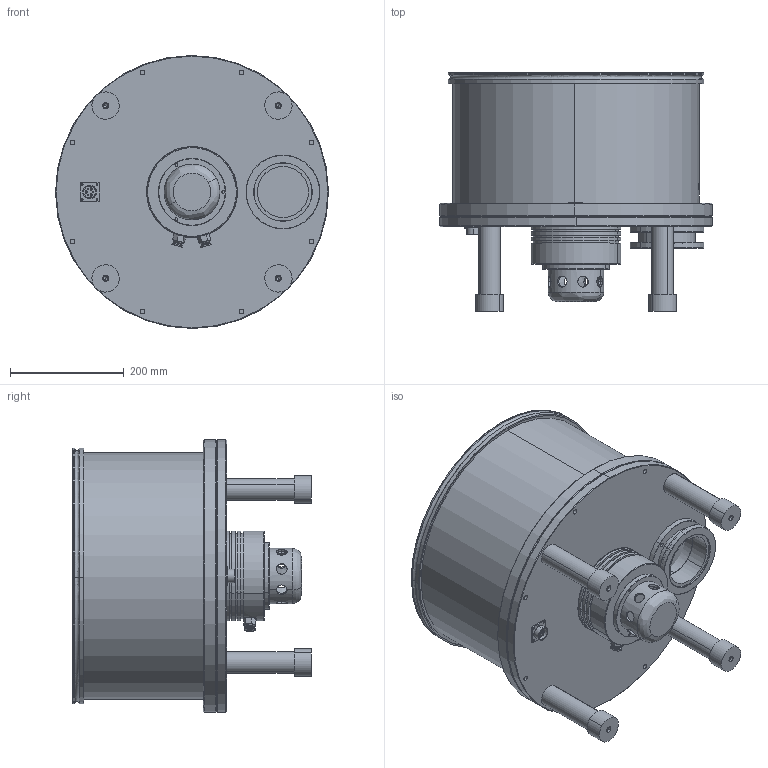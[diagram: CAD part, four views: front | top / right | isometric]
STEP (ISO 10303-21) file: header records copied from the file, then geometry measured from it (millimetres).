
FILE_DESCRIPTION (( 'STEP AP203' ), '1' );
FILE_NAME ('JTFB-4500梓袧.STEP', '2025-03-31T02:33:13', ( 'User' ), ( 'China' ), 'SwSTEP 2.0', 'SolidWorks 2016', '' );
FILE_SCHEMA (( 'CONFIG_CONTROL_DESIGN' ));
Length unit declared in the file: millimetre
Products named in the file (20): SJJTB-3600-24蜊24-1-2; 3600蝶杶24-1-2; hexagon socket head cap screws gb_GB_FASTENER_SCREWS_HSHCS M4X16-N; JTFB-4500梓袧; 阨郲24-1-2; JTFB-3600-01-01-01A24-1-2; JTFB210412-4200-03A-24-1-2; JTFB200918-3600-05B-01-0124-1-2_默认_按加工_; JTFB210412-4200-01A-0-24-1-2; JTFB200918-3600-05B-01-00P24-1-2; hexagon socket head cap screws gb_GB_FASTENER_SCREWS_HSHCS M8X16-N; SJJTB-3600-01-0224-1-2; 155X3.55密封圈24-1-2; JTFB200918-3600-05B-00P24-1-2; hexagon socket head cap screws gb_GB_FASTENER_SCREWS_HSHCS M4X10-N; 萇埭諉芛24-1-2; SJJTB-07-01A24-1-2; hexagon socket head cap screws gb_GB_FASTENER_SCREWS_HSHCS M6X50-N; JTFB210412-4200-0424-1-2; SJJTB-07-00A24-1-2
Assembly tree (28 placements, depth 4):
  JTFB-4500梓袧
    SJJTB-07-00A24-1-2
      SJJTB-07-01A24-1-2
    hexagon socket head cap screws gb_GB_FASTENER_SCREWS_HSHCS M4X16-N  x3
    JTFB200918-3600-05B-00P24-1-2
      JTFB200918-3600-05B-01-00P24-1-2
        JTFB-3600-01-01-01A24-1-2
        JTFB200918-3600-05B-01-0124-1-2_默认_按加工_
      SJJTB-3600-01-0224-1-2
    萇埭諉芛24-1-2
    JTFB210412-4200-0424-1-2  x4
    3600蝶杶24-1-2  x4
    阨郲24-1-2  x2
    JTFB210412-4200-03A-24-1-2
    JTFB210412-4200-01A-0-24-1-2
    hexagon socket head cap screws gb_GB_FASTENER_SCREWS_HSHCS M8X16-N
    155X3.55密封圈24-1-2
    hexagon socket head cap screws gb_GB_FASTENER_SCREWS_HSHCS M4X10-N
    hexagon socket head cap screws gb_GB_FASTENER_SCREWS_HSHCS M6X50-N
    SJJTB-3600-24蜊24-1-2
Bounding box: 480 x 419.55 x 480 mm (x, y, z)
Volume: 43642916.4 mm3; surface area: 1922786.6 mm2
Topology: 25 solids, 25 shells, 1045 faces, 2608 edges, 1643 vertices
Faces by surface type: cylinder 402, plane 291, bspline 177, cone 175
Entity records: 54170 total; most frequent: CARTESIAN_POINT 31314, ORIENTED_EDGE 4400, DIRECTION 4033, EDGE_CURVE 2200, AXIS2_PLACEMENT_3D 1680, VERTEX_POINT 1429, EDGE_LOOP 1069, CIRCLE 936
